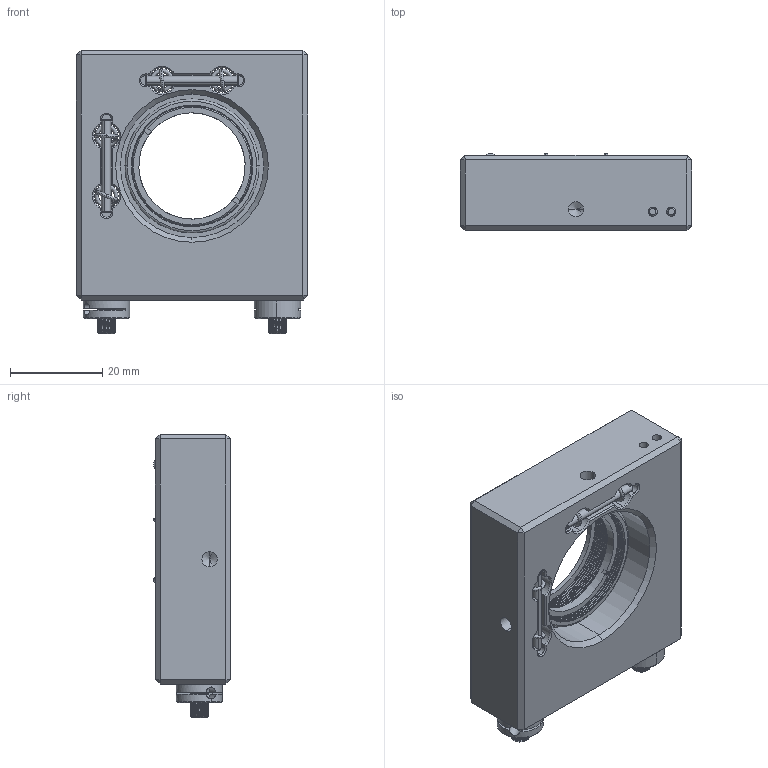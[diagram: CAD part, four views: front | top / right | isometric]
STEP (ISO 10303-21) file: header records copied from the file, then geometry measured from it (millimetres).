
FILE_DESCRIPTION (( 'STEP AP214' ), '1' );
FILE_NAME ('1英寸无旋钮上方调节镜架.STEP', '2024-12-14T01:52:59', ( '' ), ( '' ), 'SwSTEP 2.0', 'SolidWorks 2024', '' );
FILE_SCHEMA (( 'AUTOMOTIVE_DESIGN' ));
Length unit declared in the file: millimetre
Products named in the file (13): 滚针2×20; 2; 7; M4×0.25螺纹副; 拉簧0.8×5×15; 1英寸无旋钮上方调节镜架; 6; 圆柱销2×10; 3; 5 不锈钢钢珠; 4; 卡环; 1
Assembly tree (24 placements, depth 2):
  1英寸无旋钮上方调节镜架
    1
    2
    5 不锈钢钢珠  x3
    卡环
    3
    4
    滚针2×20  x4
    M4×0.25螺纹副  x2
    6
    7
    拉簧0.8×5×15  x4
    圆柱销2×10  x4
Bounding box: 50 x 16.6 x 61.26 mm (x, y, z)
Volume: 27821.4 mm3; surface area: 21555 mm2
Topology: 24 solids, 24 shells, 894 faces, 2308 edges, 1451 vertices
Faces by surface type: cylinder 434, plane 214, cone 127, bspline 75, torus 36, sphere 8
Entity records: 49510 total; most frequent: CARTESIAN_POINT 32131, ORIENTED_EDGE 4032, DIRECTION 3132, EDGE_CURVE 2016, VERTEX_POINT 1278, AXIS2_PLACEMENT_3D 1154, LINE 824, VECTOR 824
